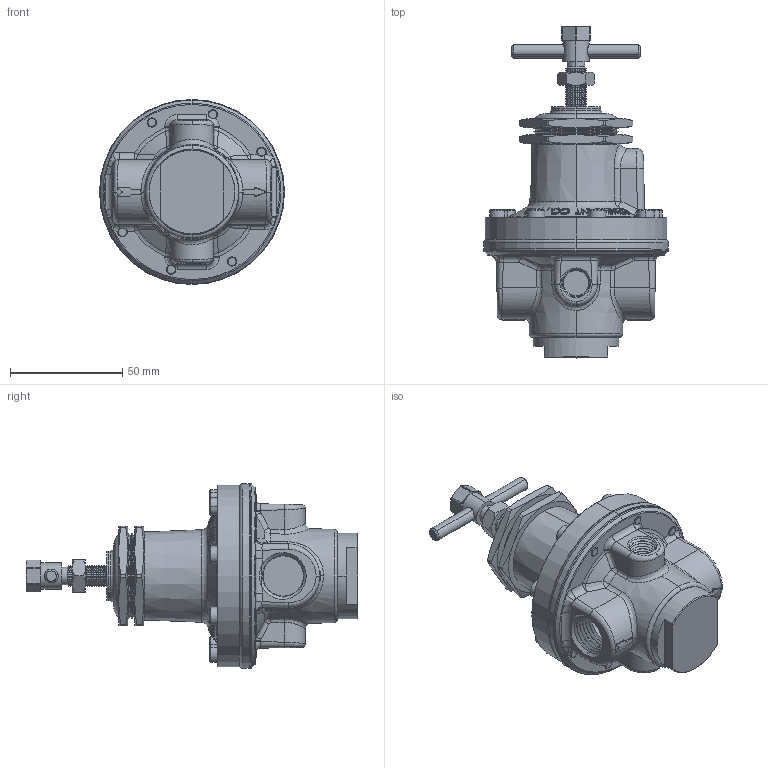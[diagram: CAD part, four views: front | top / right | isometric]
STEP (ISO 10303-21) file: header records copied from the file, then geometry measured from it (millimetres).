
FILE_DESCRIPTION (( 'STEP AP203' ), '1' );
FILE_NAME ('4GDR-500B-P.STEP', '2013-03-14T14:54:18', ( '' ), ( '' ), 'SwSTEP 2.0', 'SolidWorks 2011', '' );
FILE_SCHEMA (( 'CONFIG_CONTROL_DESIGN' ));
Products named in the file (2): 4GDR-500B-P; Part16^4GDR-500B-P_CM
Assembly tree (1 placements, depth 2):
  4GDR-500B-P
    Part16^4GDR-500B-P_CM
Bounding box: 82.3 x 147.64 x 82.3 mm (x, y, z)
Volume: 244646.1 mm3; surface area: 39641.8 mm2
Topology: 1 solids, 6 shells, 1256 faces, 2903 edges, 1695 vertices
Faces by surface type: cone 439, plane 358, bspline 222, cylinder 191, torus 33, sphere 13
Entity records: 44944 total; most frequent: CARTESIAN_POINT 18649, ORIENTED_EDGE 5764, DIRECTION 4900, EDGE_CURVE 2882, AXIS2_PLACEMENT_3D 1924, VERTEX_POINT 1695, EDGE_LOOP 1323, ADVANCED_FACE 1256
